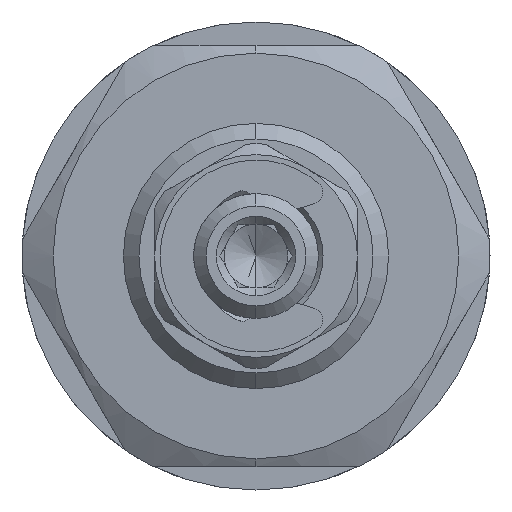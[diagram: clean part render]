
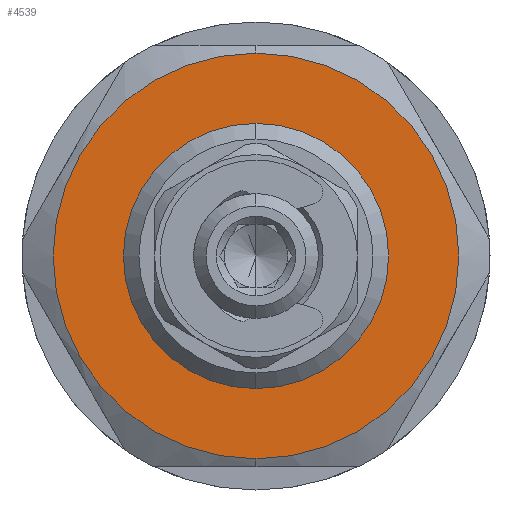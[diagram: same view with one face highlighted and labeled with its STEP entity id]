
A CAD part, left-side view. The second image highlights one B-rep face of the part: STEP entity #4539.
In plain terms, the highlighted planar face has unit normal (-1, 0, 0).
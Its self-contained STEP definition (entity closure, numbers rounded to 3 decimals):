
#248 = EDGE_LOOP ( 'NONE', ( #10775, #10699 ) ) ;
#315 = CIRCLE ( 'NONE', #4744, 8.5 ) ;
#1763 = CARTESIAN_POINT ( 'NONE',  ( 22.5, 0., 0. ) ) ;
#2063 = AXIS2_PLACEMENT_3D ( 'NONE', #1763, #9590, #2841 ) ;
#2473 = VERTEX_POINT ( 'NONE', #8714 ) ;
#2841 = DIRECTION ( 'NONE',  ( 0., 0., 1. ) ) ;
#3021 = CIRCLE ( 'NONE', #3293, 8.5 ) ;
#3199 = CIRCLE ( 'NONE', #4759, 13. ) ;
#3293 = AXIS2_PLACEMENT_3D ( 'NONE', #11599, #4681, #12721 ) ;
#4499 = CARTESIAN_POINT ( 'NONE',  ( 22.5, 0., -8.5 ) ) ;
#4539 = ADVANCED_FACE ( 'NONE', ( #11408, #11589 ), #13697, .T. ) ;
#4572 = CARTESIAN_POINT ( 'NONE',  ( 22.5, 0., 0. ) ) ;
#4681 = DIRECTION ( 'NONE',  ( -1., 0., 0. ) ) ;
#4744 = AXIS2_PLACEMENT_3D ( 'NONE', #12467, #5572, #13608 ) ;
#4759 = AXIS2_PLACEMENT_3D ( 'NONE', #12869, #5982, #13978 ) ;
#5337 = VERTEX_POINT ( 'NONE', #4499 ) ;
#5572 = DIRECTION ( 'NONE',  ( -1., 0., 0. ) ) ;
#5722 = DIRECTION ( 'NONE',  ( 0., 0., 1. ) ) ;
#5982 = DIRECTION ( 'NONE',  ( -1., 0., 0. ) ) ;
#6045 = EDGE_CURVE ( 'NONE', #7755, #2473, #3199, .T. ) ;
#7218 = EDGE_LOOP ( 'NONE', ( #11250, #10925 ) ) ;
#7755 = VERTEX_POINT ( 'NONE', #13293 ) ;
#8246 = EDGE_CURVE ( 'NONE', #2473, #7755, #11666, .T. ) ;
#8714 = CARTESIAN_POINT ( 'NONE',  ( 22.5, 0., 13. ) ) ;
#8823 = VERTEX_POINT ( 'NONE', #9813 ) ;
#9590 = DIRECTION ( 'NONE',  ( -1., 0., 0. ) ) ;
#9813 = CARTESIAN_POINT ( 'NONE',  ( 22.5, 0., 8.5 ) ) ;
#10649 = EDGE_CURVE ( 'NONE', #5337, #8823, #315, .T. ) ;
#10699 = ORIENTED_EDGE ( 'NONE', *, *, #10649, .F. ) ;
#10775 = ORIENTED_EDGE ( 'NONE', *, *, #11713, .F. ) ;
#10925 = ORIENTED_EDGE ( 'NONE', *, *, #8246, .T. ) ;
#11250 = ORIENTED_EDGE ( 'NONE', *, *, #6045, .T. ) ;
#11408 = FACE_OUTER_BOUND ( 'NONE', #7218, .T. ) ;
#11589 = FACE_BOUND ( 'NONE', #248, .T. ) ;
#11599 = CARTESIAN_POINT ( 'NONE',  ( 22.5, 0., 0. ) ) ;
#11666 = CIRCLE ( 'NONE', #2063, 13. ) ;
#11713 = EDGE_CURVE ( 'NONE', #8823, #5337, #3021, .T. ) ;
#12467 = CARTESIAN_POINT ( 'NONE',  ( 22.5, 0., 0. ) ) ;
#12623 = DIRECTION ( 'NONE',  ( -1., 0., 0. ) ) ;
#12721 = DIRECTION ( 'NONE',  ( 0., 0., 1. ) ) ;
#12869 = CARTESIAN_POINT ( 'NONE',  ( 22.5, 0., 0. ) ) ;
#13293 = CARTESIAN_POINT ( 'NONE',  ( 22.5, 0., -13. ) ) ;
#13608 = DIRECTION ( 'NONE',  ( 0., 0., 1. ) ) ;
#13697 = PLANE ( 'NONE',  #13847 ) ;
#13847 = AXIS2_PLACEMENT_3D ( 'NONE', #4572, #12623, #5722 ) ;
#13978 = DIRECTION ( 'NONE',  ( 0., 0., 1. ) ) ;
